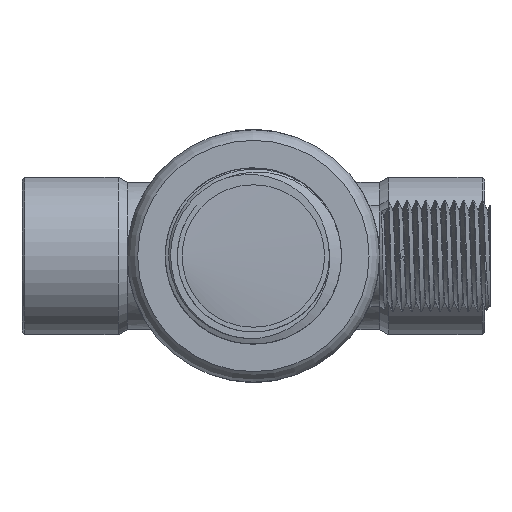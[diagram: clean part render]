
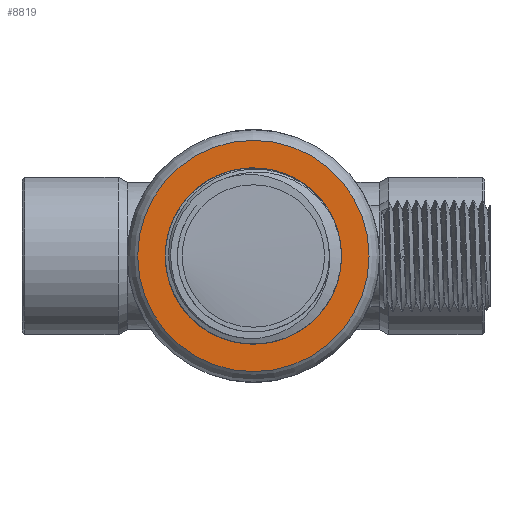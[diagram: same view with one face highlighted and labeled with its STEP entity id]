
A CAD part, left-side view. The second image highlights one B-rep face of the part: STEP entity #8819.
In plain terms, the highlighted planar face has unit normal (-1, 0, 0).
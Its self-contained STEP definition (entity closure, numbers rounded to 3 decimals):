
#196=PLANE('',#9422);
#330=FACE_BOUND('',#1496,.T.);
#336=CIRCLE('',#8872,16.75);
#337=CIRCLE('',#8873,16.75);
#374=CIRCLE('',#9060,22.);
#375=CIRCLE('',#9061,22.);
#971=FACE_OUTER_BOUND('',#1495,.T.);
#1495=EDGE_LOOP('',(#8101,#8102));
#1496=EDGE_LOOP('',(#8103,#8104));
#3295=VERTEX_POINT('',#12120);
#3296=VERTEX_POINT('',#12122);
#3602=VERTEX_POINT('',#20719);
#3603=VERTEX_POINT('',#20721);
#4193=EDGE_CURVE('',#3295,#3296,#336,.T.);
#4194=EDGE_CURVE('',#3296,#3295,#337,.T.);
#4644=EDGE_CURVE('',#3603,#3602,#374,.T.);
#4645=EDGE_CURVE('',#3602,#3603,#375,.T.);
#8101=ORIENTED_EDGE('',*,*,#4644,.T.);
#8102=ORIENTED_EDGE('',*,*,#4645,.T.);
#8103=ORIENTED_EDGE('',*,*,#4194,.F.);
#8104=ORIENTED_EDGE('',*,*,#4193,.F.);
#8819=ADVANCED_FACE('',(#971,#330),#196,.T.);
#8872=AXIS2_PLACEMENT_3D('',#12123,#9526,#9527);
#8873=AXIS2_PLACEMENT_3D('',#12124,#9528,#9529);
#9060=AXIS2_PLACEMENT_3D('',#20722,#10044,#10045);
#9061=AXIS2_PLACEMENT_3D('',#20723,#10046,#10047);
#9422=AXIS2_PLACEMENT_3D('',#35088,#11144,#11145);
#9526=DIRECTION('center_axis',(-1.,0.,0.));
#9527=DIRECTION('ref_axis',(0.,0.,1.));
#9528=DIRECTION('center_axis',(-1.,0.,0.));
#9529=DIRECTION('ref_axis',(0.,0.,1.));
#10044=DIRECTION('center_axis',(-1.,0.,0.));
#10045=DIRECTION('ref_axis',(0.,0.,1.));
#10046=DIRECTION('center_axis',(-1.,0.,0.));
#10047=DIRECTION('ref_axis',(0.,0.,1.));
#11144=DIRECTION('center_axis',(-1.,0.,0.));
#11145=DIRECTION('ref_axis',(0.,0.,1.));
#12120=CARTESIAN_POINT('',(-152.5,16.75,0.));
#12122=CARTESIAN_POINT('',(-152.5,-16.75,0.));
#12123=CARTESIAN_POINT('Origin',(-152.5,0.,
0.));
#12124=CARTESIAN_POINT('Origin',(-152.5,0.,
0.));
#20719=CARTESIAN_POINT('',(-152.5,0.,22.));
#20721=CARTESIAN_POINT('',(-152.5,-22.,0.));
#20722=CARTESIAN_POINT('Origin',(-152.5,0.,
0.));
#20723=CARTESIAN_POINT('Origin',(-152.5,0.,
0.));
#35088=CARTESIAN_POINT('Origin',(-152.5,-16.75,0.));
